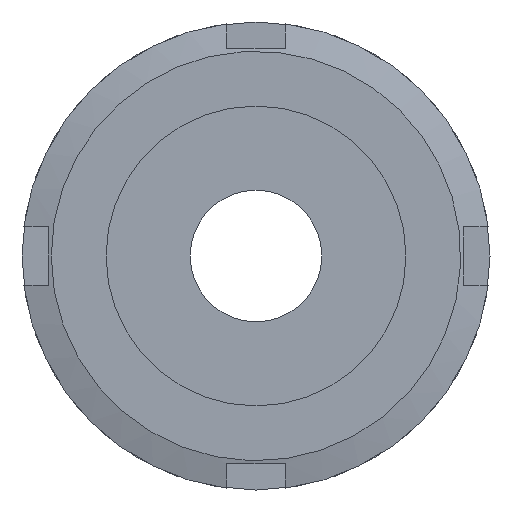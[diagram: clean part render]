
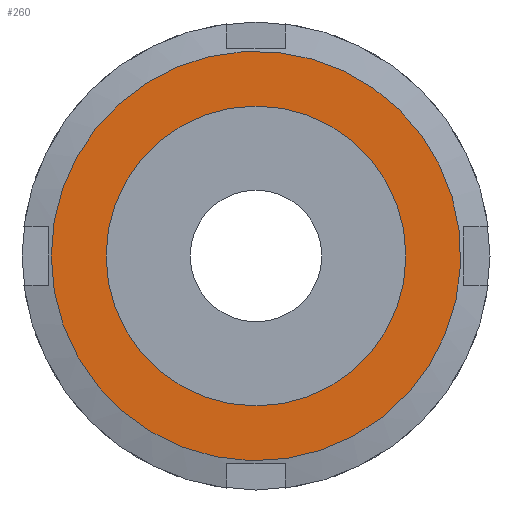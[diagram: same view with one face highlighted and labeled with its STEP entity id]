
A CAD part, left-side view. The second image highlights one B-rep face of the part: STEP entity #260.
In plain terms, the highlighted planar face has unit normal (-1, 0, 0) as drawn and (0, -1, 0) by its records, which use the part's own axes.
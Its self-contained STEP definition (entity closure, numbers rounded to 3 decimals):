
#260 = ADVANCED_FACE( '', ( #368, #369 ), #370, .F. );
#368 = FACE_BOUND( '', #573, .T. );
#369 = FACE_OUTER_BOUND( '', #574, .T. );
#370 = PLANE( '', #575 );
#573 = EDGE_LOOP( '', ( #877 ) );
#574 = EDGE_LOOP( '', ( #878 ) );
#575 = AXIS2_PLACEMENT_3D( '', #879, #880, #881 );
#877 = ORIENTED_EDGE( '', *, *, #1398, .F. );
#878 = ORIENTED_EDGE( '', *, *, #1391, .T. );
#879 = CARTESIAN_POINT( '', ( 14., 0., 0. ) );
#880 = DIRECTION( '', ( 0., 1., 0. ) );
#881 = DIRECTION( '', ( 0., 0., 1. ) );
#1391 = EDGE_CURVE( '', #1603, #1603, #1604, .T. );
#1398 = EDGE_CURVE( '', #1613, #1613, #1614, .T. );
#1603 = VERTEX_POINT( '', #2024 );
#1604 = CIRCLE( '', #2025, 14. );
#1613 = VERTEX_POINT( '', #2055 );
#1614 = CIRCLE( '', #2056, 10.25 );
#2024 = CARTESIAN_POINT( '', ( 0., 0., -14. ) );
#2025 = AXIS2_PLACEMENT_3D( '', #2530, #2531, #2532 );
#2055 = CARTESIAN_POINT( '', ( 0., 0., -10.25 ) );
#2056 = AXIS2_PLACEMENT_3D( '', #2539, #2540, #2541 );
#2530 = CARTESIAN_POINT( '', ( 0., 0., 0. ) );
#2531 = DIRECTION( '', ( 0., -1., 0. ) );
#2532 = DIRECTION( '', ( 0., 0., -1. ) );
#2539 = CARTESIAN_POINT( '', ( 0., 0., 0. ) );
#2540 = DIRECTION( '', ( 0., -1., 0. ) );
#2541 = DIRECTION( '', ( 0., 0., -1. ) );
